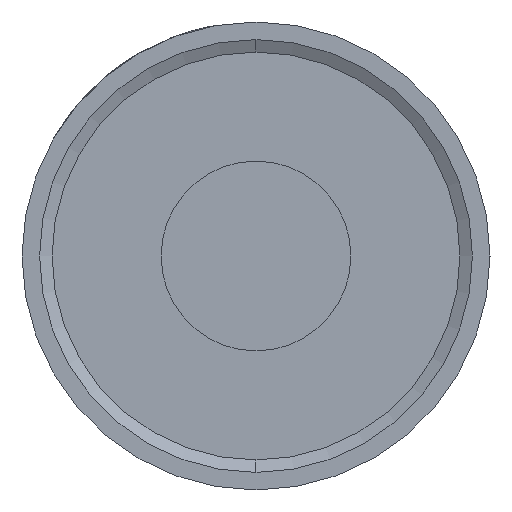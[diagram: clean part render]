
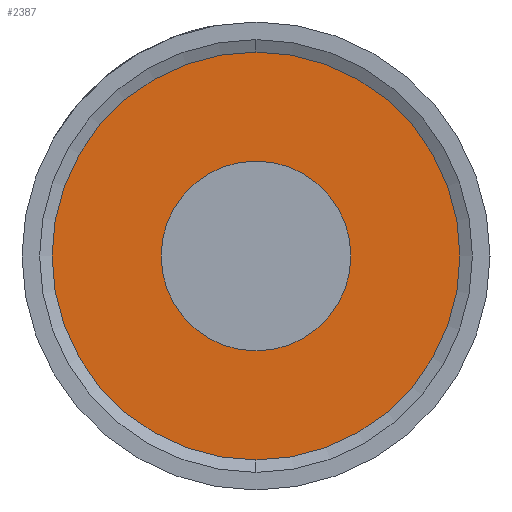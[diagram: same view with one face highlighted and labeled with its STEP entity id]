
A CAD part, left-side view. The second image highlights one B-rep face of the part: STEP entity #2387.
In plain terms, the highlighted planar face has unit normal (-1, 0, 0).
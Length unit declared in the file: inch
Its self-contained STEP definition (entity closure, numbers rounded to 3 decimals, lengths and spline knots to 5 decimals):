
#712 = DIRECTION ( 'NONE',  ( 0., 0., 1. ) ) ;
#1167 = CIRCLE ( 'NONE', #21260, 0.1225 ) ;
#1764 = CIRCLE ( 'NONE', #16054, 0.057 ) ;
#1989 = ORIENTED_EDGE ( 'NONE', *, *, #7550, .T. ) ;
#2327 = VERTEX_POINT ( 'NONE', #18193 ) ;
#2371 = AXIS2_PLACEMENT_3D ( 'NONE', #20340, #16926, #13510 ) ;
#2387 = ADVANCED_FACE ( 'NONE', ( #17145, #8226 ), #15116, .F. ) ;
#4528 = CARTESIAN_POINT ( 'NONE',  ( 0., 0., -0.1225 ) ) ;
#5303 = EDGE_CURVE ( 'NONE', #9214, #8032, #1764, .T. ) ;
#5404 = CIRCLE ( 'NONE', #7257, 0.1225 ) ;
#5696 = CARTESIAN_POINT ( 'NONE',  ( 0., 0., 0. ) ) ;
#6481 = VERTEX_POINT ( 'NONE', #4528 ) ;
#7257 = AXIS2_PLACEMENT_3D ( 'NONE', #22232, #8543, #18728 ) ;
#7430 = DIRECTION ( 'NONE',  ( 0., 0., 1. ) ) ;
#7550 = EDGE_CURVE ( 'NONE', #2327, #6481, #1167, .T. ) ;
#8032 = VERTEX_POINT ( 'NONE', #20939 ) ;
#8226 = FACE_OUTER_BOUND ( 'NONE', #20794, .T. ) ;
#8543 = DIRECTION ( 'NONE',  ( -1., 0., 0. ) ) ;
#9214 = VERTEX_POINT ( 'NONE', #17402 ) ;
#11139 = CARTESIAN_POINT ( 'NONE',  ( 0., 0., 0. ) ) ;
#13213 = EDGE_CURVE ( 'NONE', #6481, #2327, #5404, .T. ) ;
#13510 = DIRECTION ( 'NONE',  ( 0., 0., -1. ) ) ;
#13544 = EDGE_CURVE ( 'NONE', #8032, #9214, #18541, .T. ) ;
#14687 = CARTESIAN_POINT ( 'NONE',  ( 0., 0., 0. ) ) ;
#14984 = ORIENTED_EDGE ( 'NONE', *, *, #13213, .T. ) ;
#15116 = PLANE ( 'NONE',  #2371 ) ;
#15170 = DIRECTION ( 'NONE',  ( -1., 0., 0. ) ) ;
#16054 = AXIS2_PLACEMENT_3D ( 'NONE', #11139, #15170, #20081 ) ;
#16926 = DIRECTION ( 'NONE',  ( 1., 0., 0. ) ) ;
#17145 = FACE_BOUND ( 'NONE', #18985, .T. ) ;
#17402 = CARTESIAN_POINT ( 'NONE',  ( 0., 0., 0.057 ) ) ;
#18193 = CARTESIAN_POINT ( 'NONE',  ( 0., 0., 0.1225 ) ) ;
#18541 = CIRCLE ( 'NONE', #22161, 0.057 ) ;
#18728 = DIRECTION ( 'NONE',  ( 0., 0., 1. ) ) ;
#18985 = EDGE_LOOP ( 'NONE', ( #21486, #19640 ) ) ;
#19640 = ORIENTED_EDGE ( 'NONE', *, *, #13544, .F. ) ;
#19796 = DIRECTION ( 'NONE',  ( -1., 0., 0. ) ) ;
#20081 = DIRECTION ( 'NONE',  ( 0., 0., 1. ) ) ;
#20340 = CARTESIAN_POINT ( 'NONE',  ( 0., 0., 0. ) ) ;
#20794 = EDGE_LOOP ( 'NONE', ( #1989, #14984 ) ) ;
#20939 = CARTESIAN_POINT ( 'NONE',  ( 0., 0., -0.057 ) ) ;
#21260 = AXIS2_PLACEMENT_3D ( 'NONE', #5696, #19796, #7430 ) ;
#21486 = ORIENTED_EDGE ( 'NONE', *, *, #5303, .F. ) ;
#21733 = DIRECTION ( 'NONE',  ( -1., 0., 0. ) ) ;
#22161 = AXIS2_PLACEMENT_3D ( 'NONE', #14687, #21733, #712 ) ;
#22232 = CARTESIAN_POINT ( 'NONE',  ( 0., 0., 0. ) ) ;
